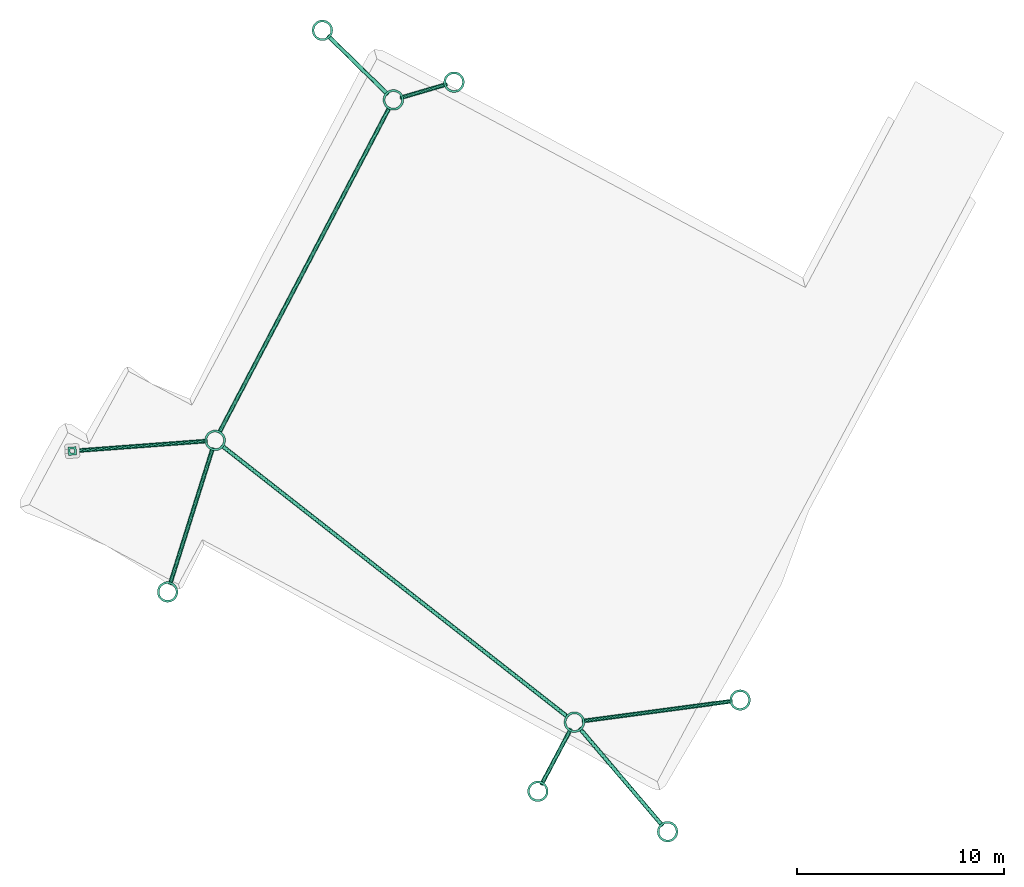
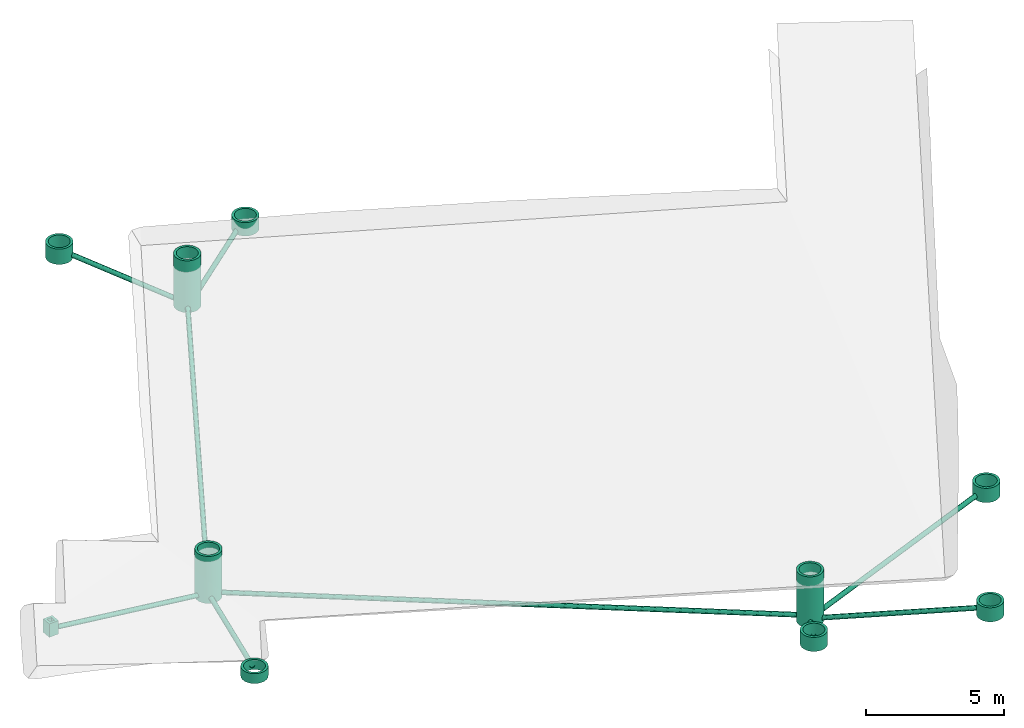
# One storey, part 2 of 2: 10 flow fittings, 9 flow segments.
"""IFC2X3 building model written with IfcOpenShell, lengths in metres."""

from ifc_helpers import new_model, si_unit, frame, origin, origin_2d, place, context, subcontext, project, spatial, hollow_rectangle, hollow_circle, extrude, element, save


model = new_model("IFC2X3")

# Units and contexts
model_context = context("Model", 3, world=origin())
body_context = subcontext(model_context, "Body", "Model", "MODEL_VIEW")
ifc_project = project(units=[si_unit("LENGTHUNIT", "METRE"), si_unit("AREAUNIT", "SQUARE_METRE"), si_unit("VOLUMEUNIT", "CUBIC_METRE"), si_unit("PLANEANGLEUNIT", "RADIAN"), si_unit("MASSUNIT", "GRAM", prefix="KILO")], contexts=[model_context])

# Site, building, storey
site_placement = place(None, origin())
site = spatial("IfcSite", under=ifc_project, at=site_placement, Name="Terrain", CompositionType="COMPLEX")
building_placement = place(site_placement, origin())
building = spatial("IfcBuilding", under=site, at=building_placement, Name="Non défini (Terrain)", CompositionType="ELEMENT")
storey_placement = place(building_placement, origin())
storey = spatial("IfcBuildingStorey", under=building, at=storey_placement, Name="Extérieur (Terrain)", CompositionType="ELEMENT", Elevation=87.020000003)

# Flow segment
flow_segment_1_placement = place(storey_placement, origin())
element("IfcFlowSegment", 1, at=flow_segment_1_placement, inside=storey, Name="Tronçon : R2 - R1", ObjectType="EU", context=body_context, shape_type="SweptSolid", body=[
    extrude(hollow_circle(Radius=0.1, WallThickness=0.0085, at=origin_2d()), frame((-68.782824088, -41.401800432, 170.59150000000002), z_axis=(8.25228551, 15.765091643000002, -0.1), x_axis=(-15.765091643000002, 8.25228551, 0.0)), (0.0, 0.0, 1.0), 17.79461521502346),
])

# Flow fittings
flow_fitting_1_placement = place(storey_placement, origin())
element("IfcFlowFitting", 2, at=flow_fitting_1_placement, inside=storey, Name="Noeud : R2", ObjectType="EU", context=body_context, shape_type="SweptSolid", body=[
    extrude(hollow_circle(Radius=0.5, WallThickness=0.1, at=origin_2d()), frame((-68.963968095, -41.747856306, 170.4), z_axis=(0.0, 0.0, 2.089791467), x_axis=(0.469471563, 0.882947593, 0.0)), (0.0, 0.0, 1.0), 2.089791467),
])
flow_fitting_2_placement = place(storey_placement, origin())
element("IfcFlowFitting", 3, at=flow_fitting_2_placement, inside=storey, Name="Noeud : R1", ObjectType="EU", context=body_context, shape_type="SweptSolid", body=[
    extrude(hollow_circle(Radius=0.5, WallThickness=0.1, at=origin_2d()), frame((-60.349394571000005, -25.290652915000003, 170.3), z_axis=(0.0, 0.0, 2.297138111), x_axis=(0.469471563, 0.882947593, 0.0)), (0.0, 0.0, 1.0), 2.297138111),
])

# Flow segment
flow_segment_2_placement = place(storey_placement, origin())
element("IfcFlowSegment", 4, at=flow_segment_2_placement, inside=storey, Name="Tronçon : R3 - R2", ObjectType="EU", context=body_context, shape_type="SweptSolid", body=[
    extrude(hollow_circle(Radius=0.1, WallThickness=0.0085, at=origin_2d()), frame((-51.906715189, -55.12631424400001, 171.69150000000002), z_axis=(-16.749910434, 13.137401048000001, -1.1), x_axis=(-13.137401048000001, -16.749910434, 0.0)), (0.0, 0.0, 1.0), 21.3157407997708),
])

# Flow fitting
flow_fitting_3_placement = place(storey_placement, origin())
element("IfcFlowFitting", 5, at=flow_fitting_3_placement, inside=storey, Name="Noeud : R3", ObjectType="EU", context=body_context, shape_type="SweptSolid", body=[
    extrude(hollow_circle(Radius=0.5, WallThickness=0.1, at=origin_2d()), frame((-51.599372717, -55.367371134, 171.5), z_axis=(0.0, 0.0, 2.259236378), x_axis=(0.777145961, -0.629320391, 0.0)), (0.0, 0.0, 1.0), 2.259236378),
])

# Flow segment
flow_segment_3_placement = place(storey_placement, origin())
element("IfcFlowSegment", 6, at=flow_segment_3_placement, inside=storey, Name="Tronçon : R4 - R3", ObjectType="EU", context=body_context, shape_type="SweptSolid", body=[
    extrude(hollow_circle(Radius=0.1, WallThickness=0.0085, at=origin_2d()), frame((-47.350702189, -60.362147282, 173.59150000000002), z_axis=(-3.995591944, 4.697254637, -1.9), x_axis=(-4.697254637, -3.995591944, 0.0)), (0.0, 0.0, 1.0), 6.452825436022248),
])

# Flow fitting
flow_fitting_4_placement = place(storey_placement, origin())
element("IfcFlowFitting", 7, at=flow_fitting_4_placement, inside=storey, Name="Noeud : R4", ObjectType="EU", context=body_context, shape_type="SweptSolid", body=[
    extrude(hollow_circle(Radius=0.5, WallThickness=0.1, at=origin_2d()), frame((-47.097623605, -60.659668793, 173.4), z_axis=(0.0, 0.0, 0.623164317), x_axis=(0.64278761, -0.766044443, 0.0)), (0.0, 0.0, 1.0), 0.623164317),
])

# Flow segment
flow_segment_4_placement = place(storey_placement, origin())
element("IfcFlowSegment", 8, at=flow_segment_4_placement, inside=storey, Name="Tronçon : R5 - R3", ObjectType="EU", context=body_context, shape_type="SweptSolid", body=[
    extrude(hollow_circle(Radius=0.1, WallThickness=0.0085, at=origin_2d()), frame((-53.18403966, -58.363848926, 173.2915), z_axis=(1.402063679, 2.651189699, -1.6), x_axis=(-2.651189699, 1.402063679, 0.0)), (0.0, 0.0, 1.0), 3.399204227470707),
])

# Flow fitting
flow_fitting_5_placement = place(storey_placement, origin())
element("IfcFlowFitting", 9, at=flow_fitting_5_placement, inside=storey, Name="Noeud : R5", ObjectType="EU", context=body_context, shape_type="SweptSolid", body=[
    extrude(hollow_circle(Radius=0.5, WallThickness=0.1, at=origin_2d()), frame((-53.366642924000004, -58.709137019, 173.10000000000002), z_axis=(0.0, 0.0, 0.624432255), x_axis=(0.469471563, 0.882947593, 0.0)), (0.0, 0.0, 1.0), 0.624432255),
])

# Flow segment
flow_segment_5_placement = place(storey_placement, origin())
element("IfcFlowSegment", 10, at=flow_segment_5_placement, inside=storey, Name="Tronçon : R6 - R2", ObjectType="EU", context=body_context, shape_type="SweptSolid", body=[
    extrude(hollow_circle(Radius=0.1, WallThickness=0.0085, at=origin_2d()), frame((-71.146470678, -48.701435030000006, 172.2915), z_axis=(2.065532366, 6.580904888, -1.7), x_axis=(-6.580904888, 2.065532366, 0.0)), (0.0, 0.0, 1.0), 7.103853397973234),
])

# Flow fitting
flow_fitting_6_placement = place(storey_placement, origin())
element("IfcFlowFitting", 11, at=flow_fitting_6_placement, inside=storey, Name="Noeud : R6", ObjectType="EU", context=body_context, shape_type="SweptSolid", body=[
    extrude(hollow_circle(Radius=0.5, WallThickness=0.1, at=origin_2d()), frame((-71.263440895, -49.074108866, 172.10000000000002), z_axis=(0.0, 0.0, 0.438329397), x_axis=(0.309016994, 0.951056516, 0.0)), (0.0, 0.0, 1.0), 0.438329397),
])

# Flow segment
flow_segment_6_placement = place(storey_placement, origin())
element("IfcFlowSegment", 12, at=flow_segment_6_placement, inside=storey, Name="Tronçon : R7 - R2", ObjectType="EU", context=body_context, shape_type="SweptSolid", body=[
    extrude(hollow_circle(Radius=0.1, WallThickness=0.0085, at=origin_2d()), frame((-75.703073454, -42.250715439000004, 171.66150000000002), z_axis=(6.349588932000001, 0.473794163, -1.07), x_axis=(-0.473794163, 6.349588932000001, 0.0)), (0.0, 0.0, 1.0), 6.456520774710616),
])

# Flow fitting
flow_fitting_7_placement = place(storey_placement, origin())
element("IfcFlowFitting", 13, at=flow_fitting_7_placement, inside=storey, Name="Noeud : R7", ObjectType="EU", context=body_context, shape_type="SweptSolid", body=[
    extrude(hollow_rectangle(XDim=0.4, YDim=0.4, WallThickness=0.1, at=origin_2d()), frame((-75.87215405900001, -42.263331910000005, 171.47), z_axis=(0.0, 0.0, 0.59695489), x_axis=(0.99756405, 0.069756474, 0.0)), (0.0, 0.0, 1.0), 0.59695489),
])

# Flow segment
flow_segment_7_placement = place(storey_placement, origin())
element("IfcFlowSegment", 14, at=flow_segment_7_placement, inside=storey, Name="Tronçon : R8 - R1", ObjectType="EU", context=body_context, shape_type="SweptSolid", body=[
    extrude(hollow_circle(Radius=0.1, WallThickness=0.0085, at=origin_2d()), frame((-57.793870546, -24.542152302, 172.34150000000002), z_axis=(-2.180672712, -0.638708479, -1.85), x_axis=(0.638708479, -2.180672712, 0.0)), (0.0, 0.0, 1.0), 2.930150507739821),
])

# Flow fitting
flow_fitting_8_placement = place(storey_placement, origin())
element("IfcFlowFitting", 15, at=flow_fitting_8_placement, inside=storey, Name="Noeud : R8", ObjectType="EU", context=body_context, shape_type="SweptSolid", body=[
    extrude(hollow_circle(Radius=0.5, WallThickness=0.1, at=origin_2d()), frame((-57.419019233, -24.432360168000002, 172.15), z_axis=(0.0, 0.0, 0.597631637), x_axis=(0.961261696, 0.275637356, 0.0)), (0.0, 0.0, 1.0), 0.597631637),
])

# Flow segment
flow_segment_8_placement = place(storey_placement, origin())
element("IfcFlowSegment", 16, at=flow_segment_8_placement, inside=storey, Name="Tronçon : R9 - R1", ObjectType="EU", context=body_context, shape_type="SweptSolid", body=[
    extrude(hollow_circle(Radius=0.1, WallThickness=0.0085, at=origin_2d()), frame((-63.500292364, -22.201566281, 171.7915), z_axis=(2.87198016, -2.815640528, -1.3), x_axis=(2.815640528, 2.87198016, 0.0)), (0.0, 0.0, 1.0), 4.226831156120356),
])

# Flow fitting
flow_fitting_9_placement = place(storey_placement, origin())
element("IfcFlowFitting", 17, at=flow_fitting_9_placement, inside=storey, Name="Noeud : R9", ObjectType="EU", context=body_context, shape_type="SweptSolid", body=[
    extrude(hollow_circle(Radius=0.5, WallThickness=0.1, at=origin_2d()), frame((-63.779209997, -21.928120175, 171.60000000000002), z_axis=(0.0, 0.0, 0.678680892), x_axis=(0.707106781, -0.707106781, 0.0)), (0.0, 0.0, 1.0), 0.678680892),
])

# Flow segment
flow_segment_9_placement = place(storey_placement, origin())
element("IfcFlowSegment", 18, at=flow_segment_9_placement, inside=storey, Name="Tronçon : R10 - R3", ObjectType="EU", context=body_context, shape_type="SweptSolid", body=[
    extrude(hollow_circle(Radius=0.1, WallThickness=0.0085, at=origin_2d()), frame((-43.977741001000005, -54.350106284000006, 173.7915), z_axis=(-7.234465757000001, -0.965589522, -2.1), x_axis=(0.965589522, -7.234465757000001, 0.0)), (0.0, 0.0, 1.0), 7.594725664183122),
])

# Flow fitting
flow_fitting_10_placement = place(storey_placement, origin())
element("IfcFlowFitting", 19, at=flow_fitting_10_placement, inside=storey, Name="Noeud : R10", ObjectType="EU", context=body_context, shape_type="SweptSolid", body=[
    extrude(hollow_circle(Radius=0.5, WallThickness=0.1, at=origin_2d()), frame((-43.590575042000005, -54.298430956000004, 173.60000000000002), z_axis=(0.0, 0.0, 0.635180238), x_axis=(0.992546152, 0.121869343, 0.0)), (0.0, 0.0, 1.0), 0.635180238),
])

save(model, "model.ifc")
